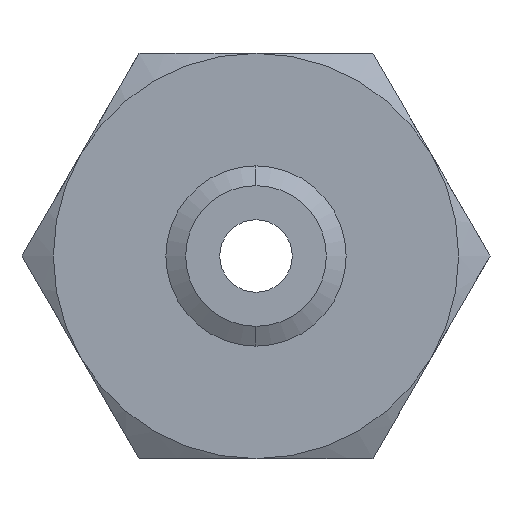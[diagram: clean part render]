
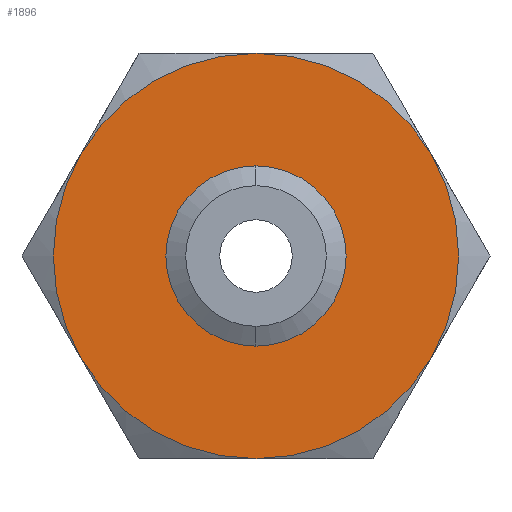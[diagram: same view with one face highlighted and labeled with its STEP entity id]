
A CAD part, front view. The second image highlights one B-rep face of the part: STEP entity #1896.
In plain terms, the highlighted planar face has unit normal (0, -1, 0).
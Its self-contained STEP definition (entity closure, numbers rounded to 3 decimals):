
#50 = EDGE_CURVE ( 'NONE', #1904, #1861, #358, .T. ) ;
#178 = EDGE_CURVE ( 'NONE', #179, #180, #607, .T. ) ;
#179 = VERTEX_POINT ( 'NONE', #602 ) ;
#180 = VERTEX_POINT ( 'NONE', #601 ) ;
#354 = DIRECTION ( 'NONE',  ( 0., 0., 1. ) ) ;
#355 = DIRECTION ( 'NONE',  ( 0., 1., 0. ) ) ;
#356 = CARTESIAN_POINT ( 'NONE',  ( 0., 0., 0. ) ) ;
#357 = AXIS2_PLACEMENT_3D ( 'NONE', #356, #355, #354 ) ;
#358 = CIRCLE ( 'NONE', #357, 25. ) ;
#601 = CARTESIAN_POINT ( 'NONE',  ( 0., 0., 8.673 ) ) ;
#602 = CARTESIAN_POINT ( 'NONE',  ( 0., 0., -8.673 ) ) ;
#603 = DIRECTION ( 'NONE',  ( 0., 0., -1. ) ) ;
#604 = DIRECTION ( 'NONE',  ( 0., -1., 0. ) ) ;
#605 = CARTESIAN_POINT ( 'NONE',  ( 0., 0., 0. ) ) ;
#606 = AXIS2_PLACEMENT_3D ( 'NONE', #605, #604, #603 ) ;
#607 = CIRCLE ( 'NONE', #606, 8.673 ) ;
#1285 = CARTESIAN_POINT ( 'NONE',  ( 21.651, 0., -12.5 ) ) ;
#1313 = CIRCLE ( 'NONE', #1374, 25. ) ;
#1315 = CARTESIAN_POINT ( 'NONE',  ( -21.651, 0., -12.5 ) ) ;
#1317 = CARTESIAN_POINT ( 'NONE',  ( 0., 0., -25. ) ) ;
#1322 = DIRECTION ( 'NONE',  ( 0., 0., 1. ) ) ;
#1323 = DIRECTION ( 'NONE',  ( 0., 1., 0. ) ) ;
#1324 = CARTESIAN_POINT ( 'NONE',  ( 0., 0., 0. ) ) ;
#1325 = AXIS2_PLACEMENT_3D ( 'NONE', #1324, #1323, #1322 ) ;
#1326 = CIRCLE ( 'NONE', #1325, 25. ) ;
#1327 = DIRECTION ( 'NONE',  ( 0., 0., 1. ) ) ;
#1328 = DIRECTION ( 'NONE',  ( 0., 1., 0. ) ) ;
#1329 = CARTESIAN_POINT ( 'NONE',  ( 0., 0., 0. ) ) ;
#1330 = AXIS2_PLACEMENT_3D ( 'NONE', #1329, #1328, #1327 ) ;
#1331 = CIRCLE ( 'NONE', #1330, 25. ) ;
#1333 = DIRECTION ( 'NONE',  ( 0., 0., 1. ) ) ;
#1334 = DIRECTION ( 'NONE',  ( 0., 1., 0. ) ) ;
#1335 = CARTESIAN_POINT ( 'NONE',  ( 0., 0., 0. ) ) ;
#1336 = AXIS2_PLACEMENT_3D ( 'NONE', #1335, #1334, #1333 ) ;
#1337 = CIRCLE ( 'NONE', #1336, 25. ) ;
#1342 = CARTESIAN_POINT ( 'NONE',  ( 0., 0., 0. ) ) ;
#1343 = AXIS2_PLACEMENT_3D ( 'NONE', #1342, #1407, #1406 ) ;
#1344 = CIRCLE ( 'NONE', #1343, 25. ) ;
#1353 = DIRECTION ( 'NONE',  ( 0., 0., 1. ) ) ;
#1354 = DIRECTION ( 'NONE',  ( 0., 1., 0. ) ) ;
#1355 = CARTESIAN_POINT ( 'NONE',  ( 14.434, 0., -25. ) ) ;
#1357 = AXIS2_PLACEMENT_3D ( 'NONE', #1355, #1354, #1353 ) ;
#1358 = PLANE ( 'NONE',  #1357 ) ;
#1359 = FACE_BOUND ( 'NONE', #1883, .T. ) ;
#1360 = FACE_OUTER_BOUND ( 'NONE', #1895, .T. ) ;
#1371 = DIRECTION ( 'NONE',  ( 0., 0., 1. ) ) ;
#1372 = DIRECTION ( 'NONE',  ( 0., 1., 0. ) ) ;
#1373 = CARTESIAN_POINT ( 'NONE',  ( 0., 0., 0. ) ) ;
#1374 = AXIS2_PLACEMENT_3D ( 'NONE', #1373, #1372, #1371 ) ;
#1403 = CARTESIAN_POINT ( 'NONE',  ( -21.651, 0., 12.5 ) ) ;
#1404 = CARTESIAN_POINT ( 'NONE',  ( 21.651, 0., 12.5 ) ) ;
#1405 = CARTESIAN_POINT ( 'NONE',  ( 0., 0., 25. ) ) ;
#1406 = DIRECTION ( 'NONE',  ( 0., 0., 1. ) ) ;
#1407 = DIRECTION ( 'NONE',  ( 0., 1., 0. ) ) ;
#1430 = DIRECTION ( 'NONE',  ( 0., 0., -1. ) ) ;
#1431 = DIRECTION ( 'NONE',  ( 0., -1., 0. ) ) ;
#1432 = CARTESIAN_POINT ( 'NONE',  ( 0., 0., 0. ) ) ;
#1433 = AXIS2_PLACEMENT_3D ( 'NONE', #1432, #1431, #1430 ) ;
#1434 = CIRCLE ( 'NONE', #1433, 8.673 ) ;
#1861 = VERTEX_POINT ( 'NONE', #1285 ) ;
#1863 = ORIENTED_EDGE ( 'NONE', *, *, #50, .F. ) ;
#1869 = EDGE_CURVE ( 'NONE', #1886, #1888, #1337, .T. ) ;
#1874 = ORIENTED_EDGE ( 'NONE', *, *, #1878, .F. ) ;
#1877 = ORIENTED_EDGE ( 'NONE', *, *, #1869, .F. ) ;
#1878 = EDGE_CURVE ( 'NONE', #1861, #1886, #1331, .T. ) ;
#1879 = ORIENTED_EDGE ( 'NONE', *, *, #1916, .F. ) ;
#1880 = EDGE_CURVE ( 'NONE', #1888, #1905, #1326, .T. ) ;
#1882 = ORIENTED_EDGE ( 'NONE', *, *, #178, .F. ) ;
#1883 = EDGE_LOOP ( 'NONE', ( #1882, #1879 ) ) ;
#1885 = ORIENTED_EDGE ( 'NONE', *, *, #1880, .F. ) ;
#1886 = VERTEX_POINT ( 'NONE', #1317 ) ;
#1888 = VERTEX_POINT ( 'NONE', #1315 ) ;
#1890 = EDGE_CURVE ( 'NONE', #1905, #1903, #1313, .T. ) ;
#1895 = EDGE_LOOP ( 'NONE', ( #1901, #1900, #1885, #1877, #1874, #1863 ) ) ;
#1896 = ADVANCED_FACE ( 'NONE', ( #1360, #1359 ), #1358, .F. ) ;
#1900 = ORIENTED_EDGE ( 'NONE', *, *, #1890, .F. ) ;
#1901 = ORIENTED_EDGE ( 'NONE', *, *, #1902, .F. ) ;
#1902 = EDGE_CURVE ( 'NONE', #1903, #1904, #1344, .T. ) ;
#1903 = VERTEX_POINT ( 'NONE', #1405 ) ;
#1904 = VERTEX_POINT ( 'NONE', #1404 ) ;
#1905 = VERTEX_POINT ( 'NONE', #1403 ) ;
#1916 = EDGE_CURVE ( 'NONE', #180, #179, #1434, .T. ) ;
